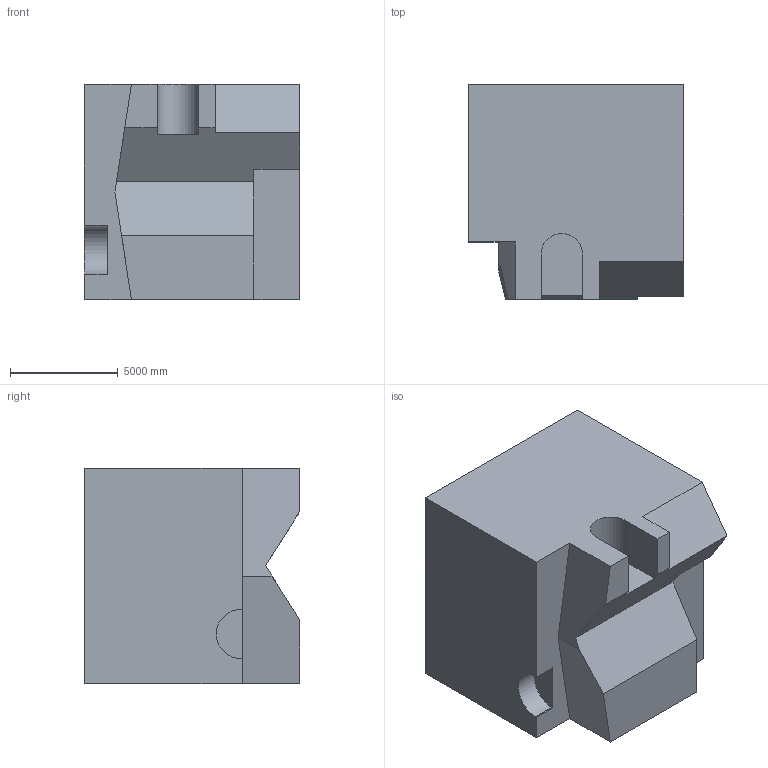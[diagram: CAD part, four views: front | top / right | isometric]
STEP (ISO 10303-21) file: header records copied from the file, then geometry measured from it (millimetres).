
FILE_DESCRIPTION (( 'STEP AP203' ), '1' );
FILE_NAME ('333.STEP', '2022-09-07T12:57:05', ( 'user' ), ( '' ), 'SwSTEP 2.0', 'SolidWorks 2021', '' );
FILE_SCHEMA (( 'CONFIG_CONTROL_DESIGN' ));
Length unit declared in the file: centimetre
Products named in the file (1): 333
Bounding box: 10000 x 10000 x 10000 mm (x, y, z)
Volume: 848506395451.9 mm3; surface area: 664142064.6 mm2
Topology: 1 solids, 1 shells, 32 faces, 84 edges, 56 vertices
Faces by surface type: plane 24, cylinder 8
Entity records: 1061 total; most frequent: CARTESIAN_POINT 173, ORIENTED_EDGE 168, DIRECTION 166, EDGE_CURVE 84, LINE 68, VECTOR 68, VERTEX_POINT 56, AXIS2_PLACEMENT_3D 49
